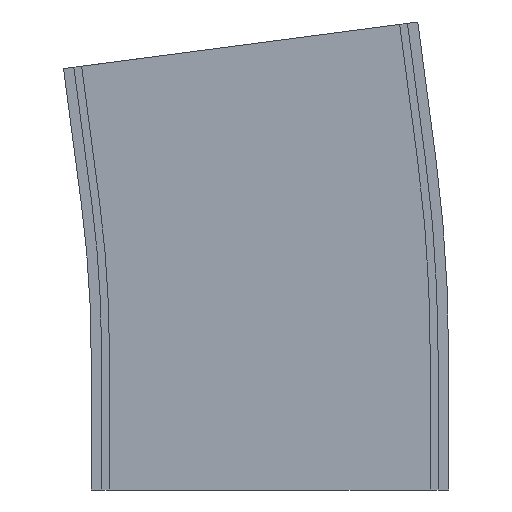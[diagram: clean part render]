
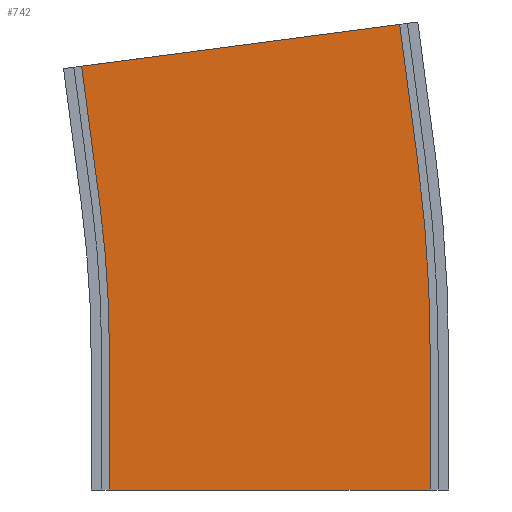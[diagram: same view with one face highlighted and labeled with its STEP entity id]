
A CAD part, left-side view. The second image highlights one B-rep face of the part: STEP entity #742.
In plain terms, the highlighted planar face has unit normal (-1, 0, 0).
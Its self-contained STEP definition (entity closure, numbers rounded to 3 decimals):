
#4 = VECTOR ( 'NONE', #1354, 1000. ) ;
#33 = VERTEX_POINT ( 'NONE', #915 ) ;
#35 = EDGE_CURVE ( 'NONE', #911, #754, #561, .T. ) ;
#38 = EDGE_CURVE ( 'NONE', #579, #456, #124, .T. ) ;
#52 = CARTESIAN_POINT ( 'NONE',  ( -116.25, -49.596, 177.809 ) ) ;
#69 = EDGE_CURVE ( 'NONE', #610, #456, #418, .T. ) ;
#120 = EDGE_CURVE ( 'NONE', #911, #610, #586, .T. ) ;
#124 = LINE ( 'NONE', #1346, #1186 ) ;
#125 = LINE ( 'NONE', #407, #965 ) ;
#205 = DIRECTION ( 'NONE',  ( 0., 0., 1. ) ) ;
#264 = EDGE_CURVE ( 'NONE', #33, #1286, #1190, .T. ) ;
#312 = CARTESIAN_POINT ( 'NONE',  ( -116.25, 71.856, 161.819 ) ) ;
#320 = VECTOR ( 'NONE', #1378, 1000. ) ;
#342 = VERTEX_POINT ( 'NONE', #312 ) ;
#351 = ORIENTED_EDGE ( 'NONE', *, *, #120, .T. ) ;
#392 = AXIS2_PLACEMENT_3D ( 'NONE', #1132, #1341, #708 ) ;
#407 = CARTESIAN_POINT ( 'NONE',  ( -116.25, 65.004, 109.768 ) ) ;
#412 = DIRECTION ( 'NONE',  ( 0., 0.131, 0.991 ) ) ;
#418 = LINE ( 'NONE', #821, #809 ) ;
#428 = CARTESIAN_POINT ( 'NONE',  ( -116.25, 65.004, 109.768 ) ) ;
#449 = CARTESIAN_POINT ( 'NONE',  ( -116.25, 61.25, 52.5 ) ) ;
#456 = VERTEX_POINT ( 'NONE', #477 ) ;
#462 = ORIENTED_EDGE ( 'NONE', *, *, #789, .F. ) ;
#477 = CARTESIAN_POINT ( 'NONE',  ( -116.25, -61.25, 0. ) ) ;
#478 = DIRECTION ( 'NONE',  ( 0., 0., -1. ) ) ;
#492 = CARTESIAN_POINT ( 'NONE',  ( -116.25, 61.25, 52.5 ) ) ;
#530 = DIRECTION ( 'NONE',  ( -1., 0., 0. ) ) ;
#561 = CIRCLE ( 'NONE', #392, 438.75 ) ;
#579 = VERTEX_POINT ( 'NONE', #1048 ) ;
#586 = LINE ( 'NONE', #492, #4 ) ;
#587 = AXIS2_PLACEMENT_3D ( 'NONE', #743, #530, #205 ) ;
#610 = VERTEX_POINT ( 'NONE', #940 ) ;
#621 = CIRCLE ( 'NONE', #587, 561.25 ) ;
#622 = DIRECTION ( 'NONE',  ( 1., 0., 0. ) ) ;
#626 = ORIENTED_EDGE ( 'NONE', *, *, #630, .F. ) ;
#630 = EDGE_CURVE ( 'NONE', #342, #1286, #687, .T. ) ;
#687 = LINE ( 'NONE', #52, #1135 ) ;
#702 = DIRECTION ( 'NONE',  ( 0., -1., 0. ) ) ;
#708 = DIRECTION ( 'NONE',  ( 0., 0., 1. ) ) ;
#716 = EDGE_CURVE ( 'NONE', #579, #33, #621, .T. ) ;
#734 = CARTESIAN_POINT ( 'NONE',  ( -116.25, -61.25, 52.5 ) ) ;
#742 = ADVANCED_FACE ( 'NONE', ( #914 ), #1270, .F. ) ;
#743 = CARTESIAN_POINT ( 'NONE',  ( -116.25, 500., 52.5 ) ) ;
#754 = VERTEX_POINT ( 'NONE', #428 ) ;
#789 = EDGE_CURVE ( 'NONE', #754, #342, #125, .T. ) ;
#800 = ORIENTED_EDGE ( 'NONE', *, *, #69, .T. ) ;
#809 = VECTOR ( 'NONE', #702, 1000. ) ;
#814 = ORIENTED_EDGE ( 'NONE', *, *, #38, .F. ) ;
#821 = CARTESIAN_POINT ( 'NONE',  ( -116.25, -61.25, 0. ) ) ;
#837 = EDGE_LOOP ( 'NONE', ( #800, #814, #1336, #1040, #626, #462, #1260, #351 ) ) ;
#838 = DIRECTION ( 'NONE',  ( 0., 1., 0. ) ) ;
#840 = CARTESIAN_POINT ( 'NONE',  ( -116.25, -56.448, 125.758 ) ) ;
#911 = VERTEX_POINT ( 'NONE', #449 ) ;
#914 = FACE_OUTER_BOUND ( 'NONE', #837, .T. ) ;
#915 = CARTESIAN_POINT ( 'NONE',  ( -116.25, -56.448, 125.758 ) ) ;
#940 = CARTESIAN_POINT ( 'NONE',  ( -116.25, 61.25, 0. ) ) ;
#965 = VECTOR ( 'NONE', #412, 1000. ) ;
#986 = AXIS2_PLACEMENT_3D ( 'NONE', #734, #622, #838 ) ;
#1040 = ORIENTED_EDGE ( 'NONE', *, *, #264, .T. ) ;
#1048 = CARTESIAN_POINT ( 'NONE',  ( -116.25, -61.25, 52.5 ) ) ;
#1132 = CARTESIAN_POINT ( 'NONE',  ( -116.25, 500., 52.5 ) ) ;
#1135 = VECTOR ( 'NONE', #1157, 1000. ) ;
#1136 = CARTESIAN_POINT ( 'NONE',  ( -116.25, -49.596, 177.809 ) ) ;
#1157 = DIRECTION ( 'NONE',  ( 0., -0.991, 0.131 ) ) ;
#1186 = VECTOR ( 'NONE', #478, 1000. ) ;
#1190 = LINE ( 'NONE', #840, #320 ) ;
#1260 = ORIENTED_EDGE ( 'NONE', *, *, #35, .F. ) ;
#1270 = PLANE ( 'NONE',  #986 ) ;
#1286 = VERTEX_POINT ( 'NONE', #1136 ) ;
#1336 = ORIENTED_EDGE ( 'NONE', *, *, #716, .T. ) ;
#1341 = DIRECTION ( 'NONE',  ( -1., 0., 0. ) ) ;
#1346 = CARTESIAN_POINT ( 'NONE',  ( -116.25, -61.25, 52.5 ) ) ;
#1354 = DIRECTION ( 'NONE',  ( 0., 0., -1. ) ) ;
#1378 = DIRECTION ( 'NONE',  ( 0., 0.131, 0.991 ) ) ;
